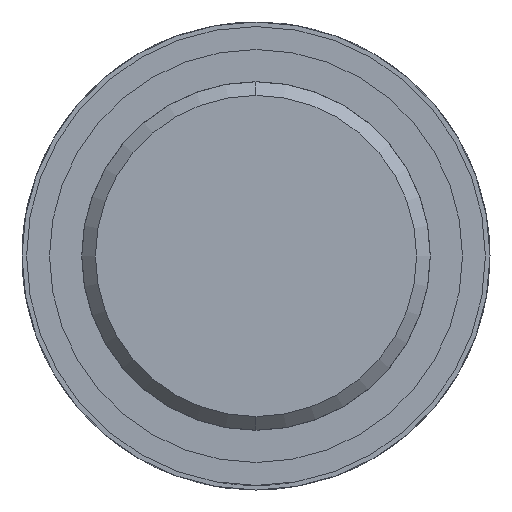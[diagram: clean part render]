
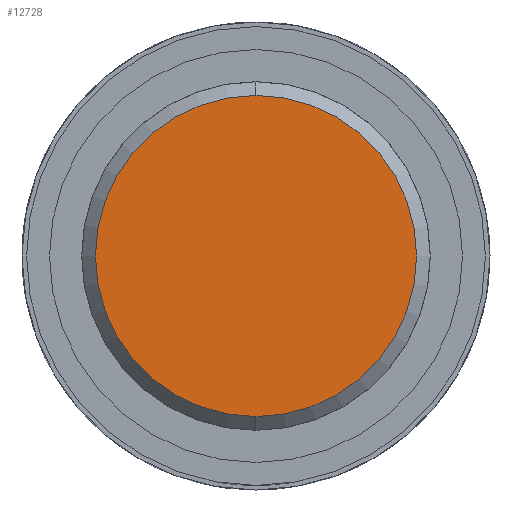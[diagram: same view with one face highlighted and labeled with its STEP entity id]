
A CAD part, left-side view. The second image highlights one B-rep face of the part: STEP entity #12728.
In plain terms, the highlighted planar face has unit normal (-1, 0, 0).
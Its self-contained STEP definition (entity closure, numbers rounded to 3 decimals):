
#50 = CIRCLE ( 'NONE', #7684, 17.5 ) ;
#897 = DIRECTION ( 'NONE',  ( 0., 0., -1. ) ) ;
#1574 = CARTESIAN_POINT ( 'NONE',  ( -210., 0., 0. ) ) ;
#4355 = CIRCLE ( 'NONE', #13270, 17.5 ) ;
#5232 = PLANE ( 'NONE',  #8689 ) ;
#5380 = FACE_OUTER_BOUND ( 'NONE', #12970, .T. ) ;
#5548 = ORIENTED_EDGE ( 'NONE', *, *, #11371, .T. ) ;
#5647 = ORIENTED_EDGE ( 'NONE', *, *, #10967, .T. ) ;
#5733 = DIRECTION ( 'NONE',  ( 0., 0., -1. ) ) ;
#6766 = CARTESIAN_POINT ( 'NONE',  ( -210., 0., 0. ) ) ;
#7684 = AXIS2_PLACEMENT_3D ( 'NONE', #6766, #9138, #5733 ) ;
#8289 = CARTESIAN_POINT ( 'NONE',  ( -210., 0., 0. ) ) ;
#8689 = AXIS2_PLACEMENT_3D ( 'NONE', #1574, #15032, #8958 ) ;
#8958 = DIRECTION ( 'NONE',  ( 0., 0., -1. ) ) ;
#9138 = DIRECTION ( 'NONE',  ( -1., 0., 0. ) ) ;
#10967 = EDGE_CURVE ( 'NONE', #11480, #15217, #4355, .T. ) ;
#11371 = EDGE_CURVE ( 'NONE', #15217, #11480, #50, .T. ) ;
#11480 = VERTEX_POINT ( 'NONE', #12246 ) ;
#11707 = DIRECTION ( 'NONE',  ( -1., 0., 0. ) ) ;
#12246 = CARTESIAN_POINT ( 'NONE',  ( -210., 0., -17.5 ) ) ;
#12728 = ADVANCED_FACE ( 'NONE', ( #5380 ), #5232, .F. ) ;
#12970 = EDGE_LOOP ( 'NONE', ( #5647, #5548 ) ) ;
#13075 = CARTESIAN_POINT ( 'NONE',  ( -210., 0., 17.5 ) ) ;
#13270 = AXIS2_PLACEMENT_3D ( 'NONE', #8289, #11707, #897 ) ;
#15032 = DIRECTION ( 'NONE',  ( 1., 0., 0. ) ) ;
#15217 = VERTEX_POINT ( 'NONE', #13075 ) ;
